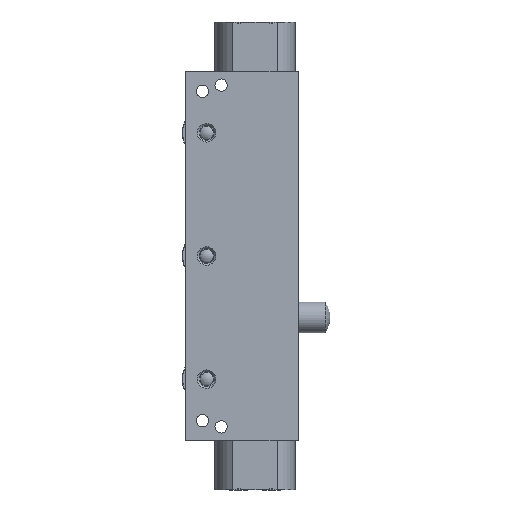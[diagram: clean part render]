
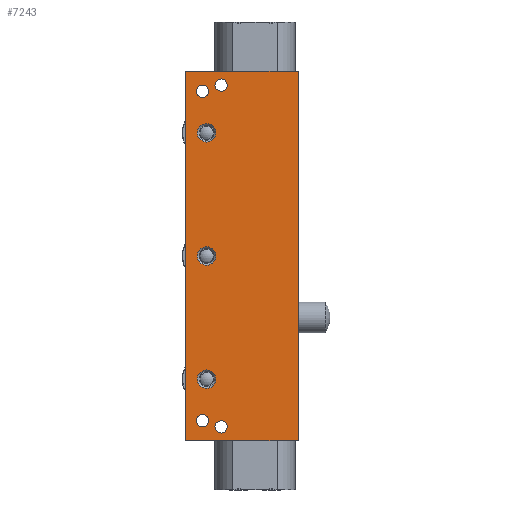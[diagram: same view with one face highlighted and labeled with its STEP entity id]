
A CAD part, left-side view. The second image highlights one B-rep face of the part: STEP entity #7243.
In plain terms, the highlighted planar face has unit normal (-1, 0, 0).
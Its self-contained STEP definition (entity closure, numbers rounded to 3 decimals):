
#290=FACE_BOUND('',#1920,.T.);
#291=FACE_BOUND('',#1921,.T.);
#292=FACE_BOUND('',#1922,.T.);
#293=FACE_BOUND('',#1923,.T.);
#294=FACE_BOUND('',#1924,.T.);
#295=FACE_BOUND('',#1925,.T.);
#296=FACE_BOUND('',#1926,.T.);
#404=PLANE('',#8145);
#615=LINE('',#11975,#964);
#617=LINE('',#11999,#966);
#652=LINE('',#12525,#1001);
#653=LINE('',#12526,#1002);
#964=VECTOR('',#9736,10.);
#966=VECTOR('',#9758,10.);
#1001=VECTOR('',#9963,10.);
#1002=VECTOR('',#9964,10.);
#1502=FACE_OUTER_BOUND('',#1919,.T.);
#1919=EDGE_LOOP('',(#5786,#5787,#5788,#5789));
#1920=EDGE_LOOP('',(#5790));
#1921=EDGE_LOOP('',(#5791,#5792));
#1922=EDGE_LOOP('',(#5793,#5794));
#1923=EDGE_LOOP('',(#5795,#5796));
#1924=EDGE_LOOP('',(#5797,#5798));
#1925=EDGE_LOOP('',(#5799));
#1926=EDGE_LOOP('',(#5800));
#2512=CIRCLE('',#8142,3.);
#2515=CIRCLE('',#8146,3.);
#2516=CIRCLE('',#8147,2.);
#2517=CIRCLE('',#8148,2.);
#2518=CIRCLE('',#8149,2.);
#2519=CIRCLE('',#8150,2.);
#2520=CIRCLE('',#8151,2.);
#2521=CIRCLE('',#8152,2.);
#2522=CIRCLE('',#8153,2.);
#2523=CIRCLE('',#8154,2.);
#2524=CIRCLE('',#8155,3.);
#3076=VERTEX_POINT('',#11960);
#3083=VERTEX_POINT('',#11973);
#3094=VERTEX_POINT('',#11996);
#3095=VERTEX_POINT('',#11998);
#3179=VERTEX_POINT('',#12517);
#3182=VERTEX_POINT('',#12527);
#3183=VERTEX_POINT('',#12529);
#3184=VERTEX_POINT('',#12530);
#3185=VERTEX_POINT('',#12533);
#3186=VERTEX_POINT('',#12534);
#3187=VERTEX_POINT('',#12537);
#3188=VERTEX_POINT('',#12538);
#3189=VERTEX_POINT('',#12541);
#3190=VERTEX_POINT('',#12542);
#3191=VERTEX_POINT('',#12545);
#3980=EDGE_CURVE('',#3083,#3076,#615,.T.);
#3991=EDGE_CURVE('',#3094,#3095,#617,.T.);
#4107=EDGE_CURVE('',#3179,#3179,#2512,.T.);
#4111=EDGE_CURVE('',#3083,#3095,#652,.T.);
#4112=EDGE_CURVE('',#3076,#3094,#653,.T.);
#4113=EDGE_CURVE('',#3182,#3182,#2515,.T.);
#4114=EDGE_CURVE('',#3183,#3184,#2516,.T.);
#4115=EDGE_CURVE('',#3184,#3183,#2517,.T.);
#4116=EDGE_CURVE('',#3185,#3186,#2518,.T.);
#4117=EDGE_CURVE('',#3186,#3185,#2519,.T.);
#4118=EDGE_CURVE('',#3187,#3188,#2520,.T.);
#4119=EDGE_CURVE('',#3188,#3187,#2521,.T.);
#4120=EDGE_CURVE('',#3189,#3190,#2522,.T.);
#4121=EDGE_CURVE('',#3190,#3189,#2523,.T.);
#4122=EDGE_CURVE('',#3191,#3191,#2524,.T.);
#5786=ORIENTED_EDGE('',*,*,#4111,.T.);
#5787=ORIENTED_EDGE('',*,*,#3991,.F.);
#5788=ORIENTED_EDGE('',*,*,#4112,.F.);
#5789=ORIENTED_EDGE('',*,*,#3980,.F.);
#5790=ORIENTED_EDGE('',*,*,#4113,.F.);
#5791=ORIENTED_EDGE('',*,*,#4114,.T.);
#5792=ORIENTED_EDGE('',*,*,#4115,.T.);
#5793=ORIENTED_EDGE('',*,*,#4116,.T.);
#5794=ORIENTED_EDGE('',*,*,#4117,.T.);
#5795=ORIENTED_EDGE('',*,*,#4118,.T.);
#5796=ORIENTED_EDGE('',*,*,#4119,.T.);
#5797=ORIENTED_EDGE('',*,*,#4120,.T.);
#5798=ORIENTED_EDGE('',*,*,#4121,.T.);
#5799=ORIENTED_EDGE('',*,*,#4122,.F.);
#5800=ORIENTED_EDGE('',*,*,#4107,.F.);
#7243=ADVANCED_FACE('',(#1502,#290,#291,#292,#293,#294,#295,#296),#404,
 .T.);
#8142=AXIS2_PLACEMENT_3D('',#12518,#9954,#9955);
#8145=AXIS2_PLACEMENT_3D('',#12524,#9961,#9962);
#8146=AXIS2_PLACEMENT_3D('',#12528,#9965,#9966);
#8147=AXIS2_PLACEMENT_3D('',#12531,#9967,#9968);
#8148=AXIS2_PLACEMENT_3D('',#12532,#9969,#9970);
#8149=AXIS2_PLACEMENT_3D('',#12535,#9971,#9972);
#8150=AXIS2_PLACEMENT_3D('',#12536,#9973,#9974);
#8151=AXIS2_PLACEMENT_3D('',#12539,#9975,#9976);
#8152=AXIS2_PLACEMENT_3D('',#12540,#9977,#9978);
#8153=AXIS2_PLACEMENT_3D('',#12543,#9979,#9980);
#8154=AXIS2_PLACEMENT_3D('',#12544,#9981,#9982);
#8155=AXIS2_PLACEMENT_3D('',#12546,#9983,#9984);
#9736=DIRECTION('',(0.,-1.,0.));
#9758=DIRECTION('',(0.,1.,0.));
#9954=DIRECTION('center_axis',(-1.,0.,0.));
#9955=DIRECTION('ref_axis',(0.,0.,-1.));
#9961=DIRECTION('center_axis',(-1.,0.,0.));
#9962=DIRECTION('ref_axis',(0.,1.,0.));
#9963=DIRECTION('',(0.,0.,-1.));
#9964=DIRECTION('',(0.,0.,-1.));
#9965=DIRECTION('center_axis',(-1.,0.,0.));
#9966=DIRECTION('ref_axis',(0.,0.,-1.));
#9967=DIRECTION('center_axis',(1.,0.,0.));
#9968=DIRECTION('ref_axis',(0.,0.,-1.));
#9969=DIRECTION('center_axis',(1.,0.,0.));
#9970=DIRECTION('ref_axis',(0.,0.,-1.));
#9971=DIRECTION('center_axis',(1.,0.,0.));
#9972=DIRECTION('ref_axis',(0.,0.,-1.));
#9973=DIRECTION('center_axis',(1.,0.,0.));
#9974=DIRECTION('ref_axis',(0.,0.,-1.));
#9975=DIRECTION('center_axis',(1.,0.,0.));
#9976=DIRECTION('ref_axis',(0.,0.,1.));
#9977=DIRECTION('center_axis',(1.,0.,0.));
#9978=DIRECTION('ref_axis',(0.,0.,1.));
#9979=DIRECTION('center_axis',(1.,0.,0.));
#9980=DIRECTION('ref_axis',(0.,0.,1.));
#9981=DIRECTION('center_axis',(1.,0.,0.));
#9982=DIRECTION('ref_axis',(0.,0.,1.));
#9983=DIRECTION('center_axis',(-1.,0.,0.));
#9984=DIRECTION('ref_axis',(0.,0.,-1.));
#11960=CARTESIAN_POINT('',(-10.9,-18.25,60.));
#11973=CARTESIAN_POINT('',(-10.9,18.25,60.));
#11975=CARTESIAN_POINT('',(-10.9,-18.25,60.));
#11996=CARTESIAN_POINT('',(-10.9,-18.25,-60.));
#11998=CARTESIAN_POINT('',(-10.9,18.25,-60.));
#11999=CARTESIAN_POINT('',(-10.9,-18.25,-60.));
#12517=CARTESIAN_POINT('',(-10.9,11.45,43.));
#12518=CARTESIAN_POINT('Origin',(-10.9,11.45,40.));
#12524=CARTESIAN_POINT('Origin',(-10.9,-18.25,0.));
#12525=CARTESIAN_POINT('',(-10.9,18.25,0.));
#12526=CARTESIAN_POINT('',(-10.9,-18.25,0.));
#12527=CARTESIAN_POINT('',(-10.9,11.45,3.));
#12528=CARTESIAN_POINT('Origin',(-10.9,11.45,0.));
#12529=CARTESIAN_POINT('',(-10.9,12.75,51.5));
#12530=CARTESIAN_POINT('',(-10.9,12.75,55.5));
#12531=CARTESIAN_POINT('Origin',(-10.9,12.75,53.5));
#12532=CARTESIAN_POINT('Origin',(-10.9,12.75,53.5));
#12533=CARTESIAN_POINT('',(-10.9,6.75,53.5));
#12534=CARTESIAN_POINT('',(-10.9,6.75,57.5));
#12535=CARTESIAN_POINT('Origin',(-10.9,6.75,55.5));
#12536=CARTESIAN_POINT('Origin',(-10.9,6.75,55.5));
#12537=CARTESIAN_POINT('',(-10.9,12.75,-51.5));
#12538=CARTESIAN_POINT('',(-10.9,12.75,-55.5));
#12539=CARTESIAN_POINT('Origin',(-10.9,12.75,-53.5));
#12540=CARTESIAN_POINT('Origin',(-10.9,12.75,-53.5));
#12541=CARTESIAN_POINT('',(-10.9,6.75,-53.5));
#12542=CARTESIAN_POINT('',(-10.9,6.75,-57.5));
#12543=CARTESIAN_POINT('Origin',(-10.9,6.75,-55.5));
#12544=CARTESIAN_POINT('Origin',(-10.9,6.75,-55.5));
#12545=CARTESIAN_POINT('',(-10.9,11.45,-37.));
#12546=CARTESIAN_POINT('Origin',(-10.9,11.45,-40.));
